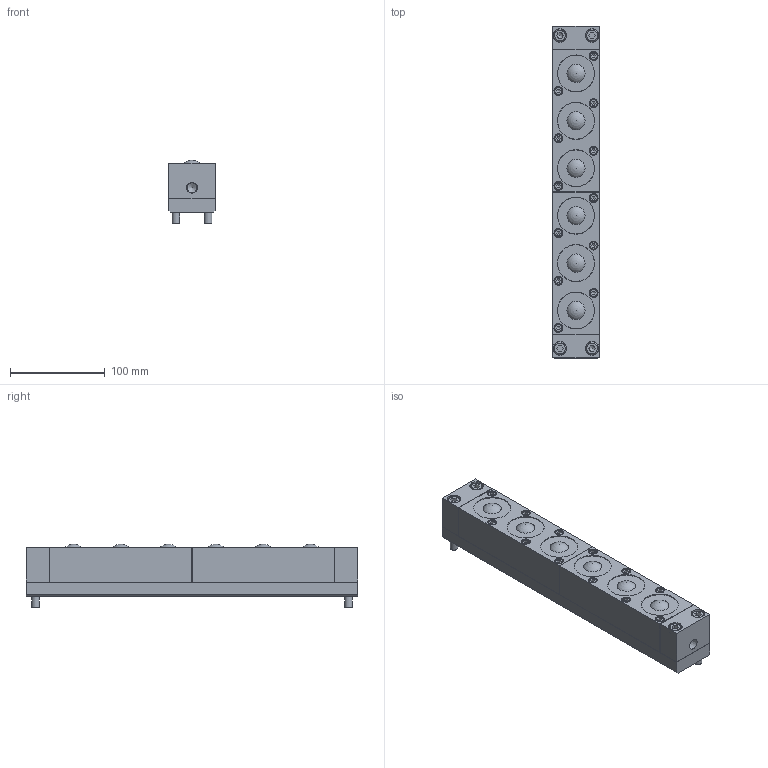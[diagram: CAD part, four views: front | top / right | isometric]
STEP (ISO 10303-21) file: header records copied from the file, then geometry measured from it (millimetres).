
FILE_DESCRIPTION(/* description */ (''),/* implementation_level */ '2;1');
FILE_NAME(/* name */ 'Z:\34-Tei\01-web 3Dデータ\08-ISR-C50S型\ISR-C50S-350-A.stp',/* time_stamp */ '2015-01-15T15:49:09+09:00',/* author */ ('yamaki'),/* organization */ (''),/* preprocessor_version */ 'ST-DEVELOPER v15.6',/* originating_system */ 'Autodesk Inventor 2015',/* authorisation */ '');
FILE_SCHEMA (('AUTOMOTIVE_DESIGN { 1 0 10303 214 3 1 1 }'));
Length unit declared in the file: millimetre
Products named in the file (5): 4200AT-01-350; ISO 4762 - M8 x 55ISO; 4601SL-3; 4600AA; ISR-C50S-100-A
Bounding box: 49.5 x 350 x 67 mm (x, y, z)
Volume: 864479.5 mm3; surface area: 194283.8 mm2
Topology: 11 solids, 11 shells, 338 faces, 713 edges, 456 vertices
Faces by surface type: plane 229, cylinder 61, cone 24, torus 18, sphere 6
Full cylindrical faces by diameter (mm): 8 x2, 8.5 x12, 9 x2, 9.5 x12, 10.5 x1, 13 x4, 14.5 x4, 38.7 x6, 39 x6, 42 x12
Entity records: 4874 total; most frequent: CARTESIAN_POINT 867, DIRECTION 780, ORIENTED_EDGE 676, EDGE_CURVE 338, AXIS2_PLACEMENT_3D 281, EDGE_LOOP 274, VERTEX_POINT 242, LINE 218
